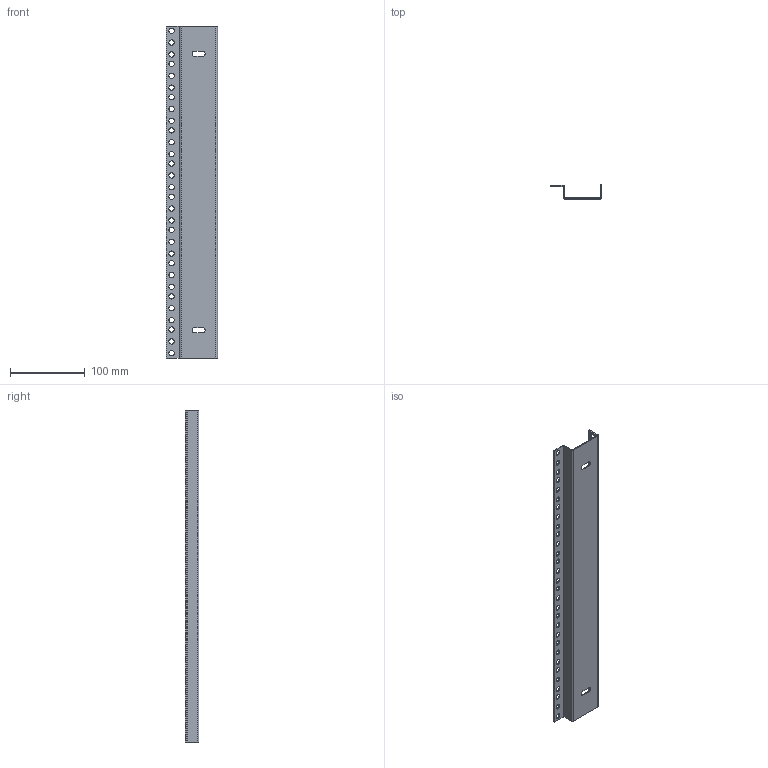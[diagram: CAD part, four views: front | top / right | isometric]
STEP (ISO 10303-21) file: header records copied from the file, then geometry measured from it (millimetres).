
FILE_DESCRIPTION( ( 'Unknown' ), '1' );
FILE_NAME( 'Q:/WEB DRAWINGS/STEP/RCHR1917.stp', 'Unknown', ( 'Unknown' ), ( 'Unknown' ), 'PSStep 16.0.42', 'Unknown', ' ' );
FILE_SCHEMA( ( 'AUTOMOTIVE_DESIGN { 1 0 10303 214 1 1 1 1 }' ) );
Length unit declared in the file: millimetre
Products named in the file (1): 1
Bounding box: 68.4 x 18.41 x 444.5 mm (x, y, z)
Volume: 60516.2 mm3; surface area: 87246.5 mm2
Topology: 1 solids, 1 shells, 86 faces, 312 edges, 228 vertices
Faces by surface type: cylinder 70, plane 16
Full cylindrical faces by diameter (mm): 7.137 x60
Entity records: 2899 total; most frequent: DIRECTION 506, CARTESIAN_POINT 447, ORIENTED_EDGE 384, EDGE_LOOP 270, AXIS2_PLACEMENT_3D 227, EDGE_CURVE 192, VERTEX_POINT 168, FACE_OUTER_BOUND 146
